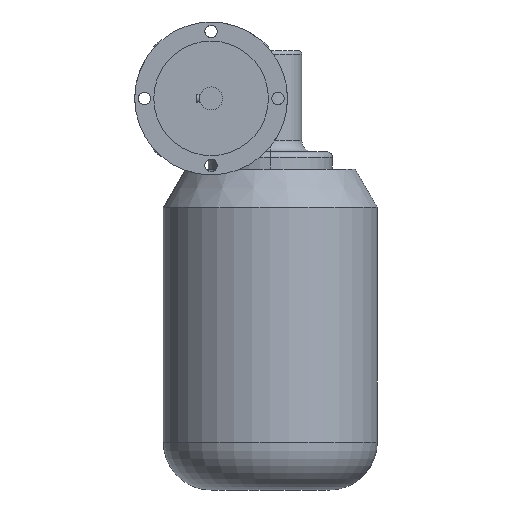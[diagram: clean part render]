
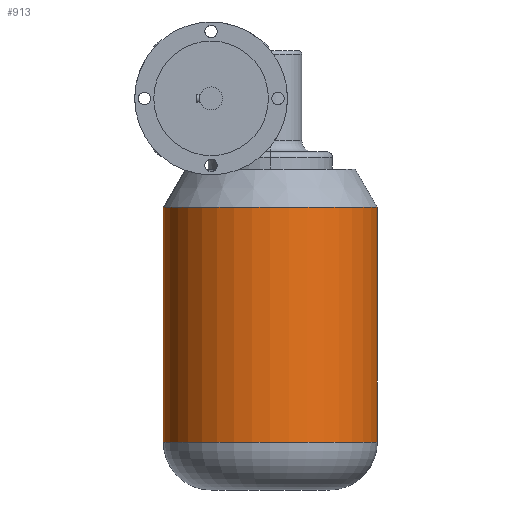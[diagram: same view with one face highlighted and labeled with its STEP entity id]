
A CAD part, left-side view. The second image highlights one B-rep face of the part: STEP entity #913.
In plain terms, the highlighted cylindrical face has radius 56 mm (diameter 112 mm), a partial arc.
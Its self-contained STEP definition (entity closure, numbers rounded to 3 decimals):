
#809 = VERTEX_POINT ( 'NONE', #3375 ) ;
#840 = VERTEX_POINT ( 'NONE', #3554 ) ;
#850 = VERTEX_POINT ( 'NONE', #3535 ) ;
#853 = VERTEX_POINT ( 'NONE', #3588 ) ;
#873 = ORIENTED_EDGE ( 'NONE', *, *, #900, .F. ) ;
#874 = ORIENTED_EDGE ( 'NONE', *, *, #875, .T. ) ;
#875 = EDGE_CURVE ( 'NONE', #850, #853, #3654, .T. ) ;
#876 = ORIENTED_EDGE ( 'NONE', *, *, #912, .T. ) ;
#877 = ORIENTED_EDGE ( 'NONE', *, *, #878, .T. ) ;
#878 = EDGE_CURVE ( 'NONE', #840, #809, #4091, .T. ) ;
#900 = EDGE_CURVE ( 'NONE', #850, #809, #4117, .T. ) ;
#912 = EDGE_CURVE ( 'NONE', #853, #840, #4145, .T. ) ;
#913 = ADVANCED_FACE ( 'NONE', ( #4141 ), #4140, .T. ) ;
#914 = EDGE_LOOP ( 'NONE', ( #873, #874, #876, #877 ) ) ;
#3375 = CARTESIAN_POINT ( 'NONE',  ( 0., 57.107, -20. ) ) ;
#3535 = CARTESIAN_POINT ( 'NONE',  ( 0., 57.107, -143. ) ) ;
#3554 = CARTESIAN_POINT ( 'NONE',  ( 0., -54.893, -20. ) ) ;
#3588 = CARTESIAN_POINT ( 'NONE',  ( 0., -54.893, -143. ) ) ;
#3651 = DIRECTION ( 'NONE',  ( 0., -1., 0. ) ) ;
#3652 = DIRECTION ( 'NONE',  ( 0., 0., 1. ) ) ;
#3653 = AXIS2_PLACEMENT_3D ( 'NONE', #3659, #3652, #3651 ) ;
#3654 = CIRCLE ( 'NONE', #3653, 56. ) ;
#3659 = CARTESIAN_POINT ( 'NONE',  ( 0., 1.107, -143. ) ) ;
#4087 = DIRECTION ( 'NONE',  ( 0., -1., 0. ) ) ;
#4088 = DIRECTION ( 'NONE',  ( 0., 0., -1. ) ) ;
#4089 = CARTESIAN_POINT ( 'NONE',  ( 0., 1.107, -20. ) ) ;
#4090 = AXIS2_PLACEMENT_3D ( 'NONE', #4089, #4088, #4087 ) ;
#4091 = CIRCLE ( 'NONE', #4090, 56. ) ;
#4114 = DIRECTION ( 'NONE',  ( 0., 0., 1. ) ) ;
#4115 = VECTOR ( 'NONE', #4114, 1000. ) ;
#4116 = CARTESIAN_POINT ( 'NONE',  ( 0., 57.107, -168. ) ) ;
#4117 = LINE ( 'NONE', #4116, #4115 ) ;
#4135 = DIRECTION ( 'NONE',  ( 0., -1., 0. ) ) ;
#4136 = DIRECTION ( 'NONE',  ( 0., 0., 1. ) ) ;
#4137 = CARTESIAN_POINT ( 'NONE',  ( 0., 1.107, -168. ) ) ;
#4138 = AXIS2_PLACEMENT_3D ( 'NONE', #4137, #4136, #4135 ) ;
#4140 = CYLINDRICAL_SURFACE ( 'NONE', #4138, 56. ) ;
#4141 = FACE_OUTER_BOUND ( 'NONE', #914, .T. ) ;
#4142 = DIRECTION ( 'NONE',  ( 0., 0., 1. ) ) ;
#4143 = VECTOR ( 'NONE', #4142, 1000. ) ;
#4144 = CARTESIAN_POINT ( 'NONE',  ( 0., -54.893, -168. ) ) ;
#4145 = LINE ( 'NONE', #4144, #4143 ) ;
